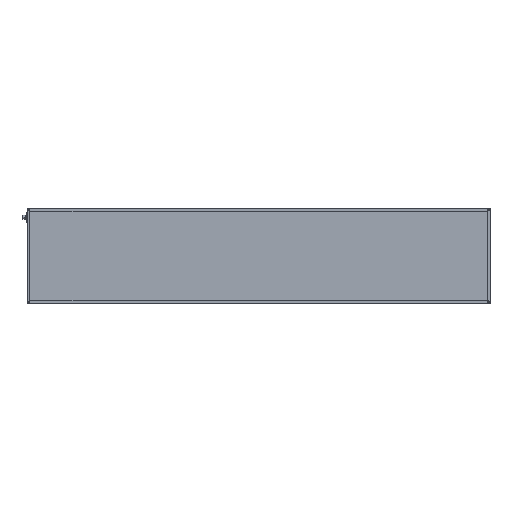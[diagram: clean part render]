
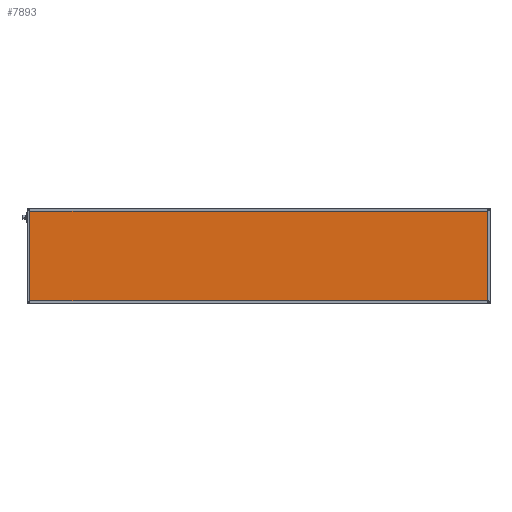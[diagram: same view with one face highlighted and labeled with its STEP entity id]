
A CAD part, top view. The second image highlights one B-rep face of the part: STEP entity #7893.
In plain terms, the highlighted planar face has unit normal (0, 0, 1).
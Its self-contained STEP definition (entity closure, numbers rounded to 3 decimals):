
#156 = CARTESIAN_POINT ( 'NONE',  ( 4., 296., 41.85 ) ) ;
#186 = DIRECTION ( 'NONE',  ( 0., 0., -1. ) ) ;
#221 = CARTESIAN_POINT ( 'NONE',  ( 1496., 0., 41.85 ) ) ;
#278 = FACE_OUTER_BOUND ( 'NONE', #15767, .T. ) ;
#1642 = AXIS2_PLACEMENT_3D ( 'NONE', #2895, #186, #2808 ) ;
#2015 = EDGE_CURVE ( 'NONE', #12253, #3889, #14279, .T. ) ;
#2808 = DIRECTION ( 'NONE',  ( -1., 0., 0. ) ) ;
#2838 = DIRECTION ( 'NONE',  ( 0., 1., 0. ) ) ;
#2895 = CARTESIAN_POINT ( 'NONE',  ( 0., 0., 41.85 ) ) ;
#3889 = VERTEX_POINT ( 'NONE', #4544 ) ;
#4472 = DIRECTION ( 'NONE',  ( 0., -1., 0. ) ) ;
#4524 = ORIENTED_EDGE ( 'NONE', *, *, #16286, .T. ) ;
#4544 = CARTESIAN_POINT ( 'NONE',  ( 1496., 4., 41.85 ) ) ;
#4874 = CARTESIAN_POINT ( 'NONE',  ( 0., 4., 41.85 ) ) ;
#5872 = LINE ( 'NONE', #13867, #14287 ) ;
#6389 = DIRECTION ( 'NONE',  ( -1., 0., 0. ) ) ;
#7893 = ADVANCED_FACE ( 'NONE', ( #278 ), #13678, .F. ) ;
#8350 = VECTOR ( 'NONE', #2838, 1000. ) ;
#8760 = VERTEX_POINT ( 'NONE', #156 ) ;
#8968 = CARTESIAN_POINT ( 'NONE',  ( 1496., 296., 41.85 ) ) ;
#9069 = EDGE_CURVE ( 'NONE', #3889, #15764, #12072, .T. ) ;
#10124 = LINE ( 'NONE', #15696, #16721 ) ;
#10440 = DIRECTION ( 'NONE',  ( 1., 0., 0. ) ) ;
#10535 = EDGE_CURVE ( 'NONE', #15764, #8760, #10124, .T. ) ;
#12072 = LINE ( 'NONE', #221, #8350 ) ;
#12253 = VERTEX_POINT ( 'NONE', #13440 ) ;
#13440 = CARTESIAN_POINT ( 'NONE',  ( 4., 4., 41.85 ) ) ;
#13678 = PLANE ( 'NONE',  #1642 ) ;
#13867 = CARTESIAN_POINT ( 'NONE',  ( 4., 0., 41.85 ) ) ;
#14279 = LINE ( 'NONE', #4874, #14395 ) ;
#14287 = VECTOR ( 'NONE', #4472, 1000. ) ;
#14395 = VECTOR ( 'NONE', #10440, 1000. ) ;
#14670 = ORIENTED_EDGE ( 'NONE', *, *, #9069, .T. ) ;
#15163 = ORIENTED_EDGE ( 'NONE', *, *, #2015, .T. ) ;
#15696 = CARTESIAN_POINT ( 'NONE',  ( 0., 296., 41.85 ) ) ;
#15764 = VERTEX_POINT ( 'NONE', #8968 ) ;
#15767 = EDGE_LOOP ( 'NONE', ( #14670, #15840, #4524, #15163 ) ) ;
#15840 = ORIENTED_EDGE ( 'NONE', *, *, #10535, .T. ) ;
#16286 = EDGE_CURVE ( 'NONE', #8760, #12253, #5872, .T. ) ;
#16721 = VECTOR ( 'NONE', #6389, 1000. ) ;
